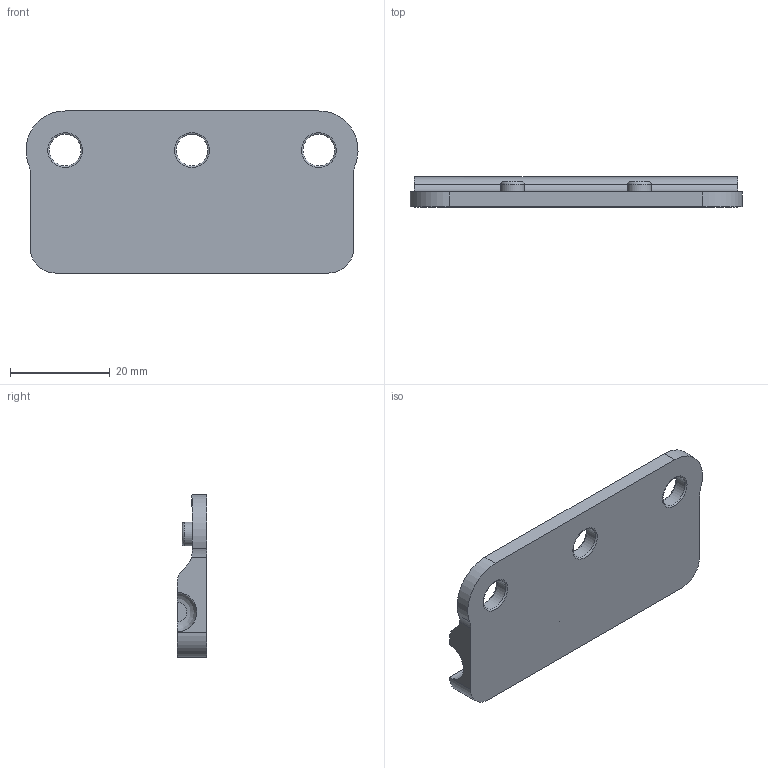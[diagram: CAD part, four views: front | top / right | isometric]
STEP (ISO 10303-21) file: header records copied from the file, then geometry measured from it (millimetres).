
FILE_DESCRIPTION(/* description */ (''),/* implementation_level */ '2;1');
FILE_NAME(/* name */ 'lower_holder_LARGE_BORE_V3.step',/* time_stamp */ '2023-02-20T17:49:45-06:00',/* author */ (''),/* organization */ (''),/* preprocessor_version */ 'ST-DEVELOPER v19.2',/* originating_system */ 'Autodesk Translation Framework v11.17.0.187',/* authorisation */ '');
FILE_SCHEMA (('AUTOMOTIVE_DESIGN { 1 0 10303 214 3 1 1 }'));
Length unit declared in the file: millimetre
Products named in the file (1): lower_holder
Bounding box: 66.49 x 6 x 32.47 mm (x, y, z)
Volume: 7797.4 mm3; surface area: 5441.7 mm2
Topology: 1 solids, 1 shells, 38 faces, 102 edges, 68 vertices
Faces by surface type: cylinder 16, plane 13, torus 8, bspline 1
Full cylindrical faces by diameter (mm): 4.75 x2, 6.35 x3
Entity records: 1284 total; most frequent: DIRECTION 237, CARTESIAN_POINT 229, ORIENTED_EDGE 204, EDGE_CURVE 102, AXIS2_PLACEMENT_3D 99, VERTEX_POINT 68, CIRCLE 61, EDGE_LOOP 46
